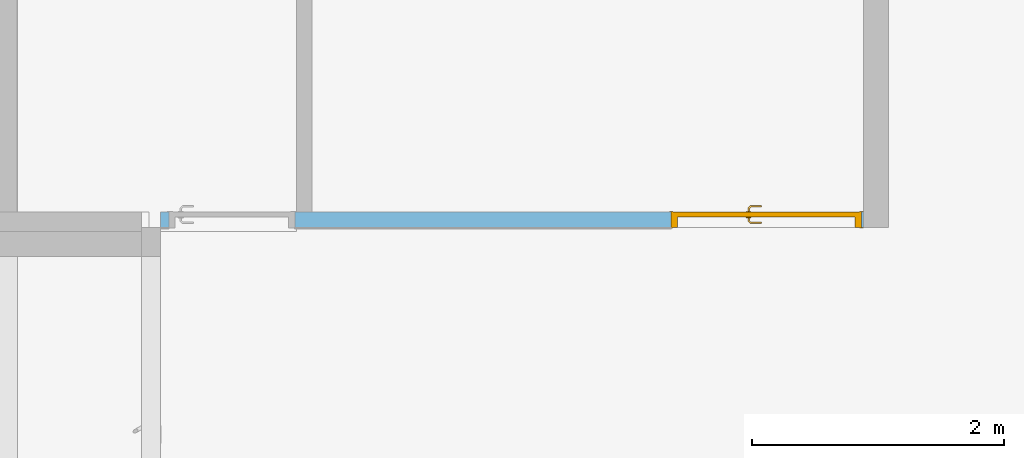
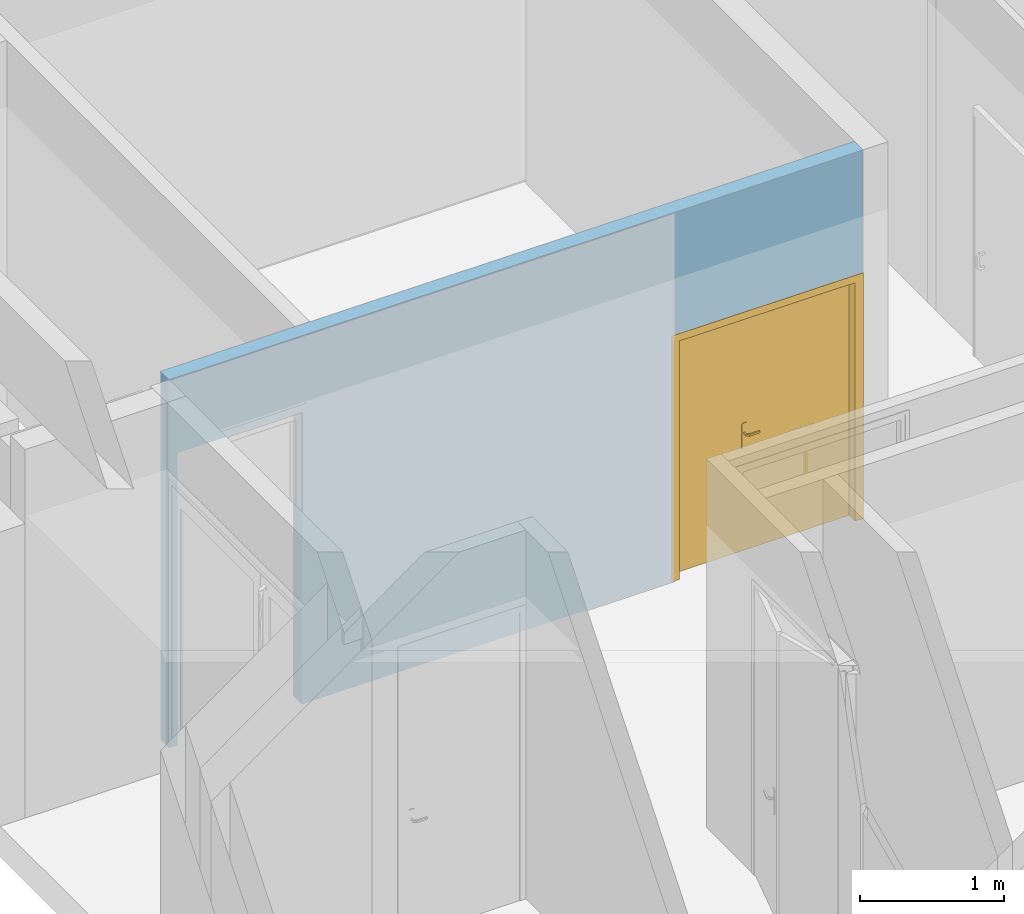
# One storey, part 197 of 240: 1 door, 2 openings, plus 1 element that does not belong to this part.
"""IFC2X3 building model written with IfcOpenShell, lengths in centimetres."""

from ifc_helpers import new_model, entity, si_unit, converted_unit, derived_unit, direction, frame, frame_2d, origin, place, context, subcontext, project, spatial, rectangle, extrude, faceted_brep, source, transform, mapped, material, material_list, layer, layer_set, layer_usage, type_object, type_shapes, element, fill, save


model = new_model("IFC2X3")

# Units and contexts
model_context = context("Model", 3, precision=0.001, world=origin(), true_north=direction((6.12303176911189e-17, 1.0)))
body_context = subcontext(model_context, "Body", "Model", "MODEL_VIEW")
ifc_project = project(units=[si_unit("LENGTHUNIT", "METRE", prefix="CENTI"), si_unit("AREAUNIT", "SQUARE_METRE"), si_unit("VOLUMEUNIT", "CUBIC_METRE"), converted_unit("PLANEANGLEUNIT", "DEGREE", entity("IfcRatioMeasure", 0.0174532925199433), si_unit("PLANEANGLEUNIT", "RADIAN"), dimensions=[0, 0, 0, 0, 0, 0, 0]), si_unit("MASSUNIT", "GRAM", prefix="KILO"), derived_unit("MASSDENSITYUNIT", [(si_unit("MASSUNIT", "GRAM", prefix="KILO"), 1), (si_unit("LENGTHUNIT", "METRE"), -3)]), si_unit("TIMEUNIT", "SECOND"), si_unit("FREQUENCYUNIT", "HERTZ"), si_unit("THERMODYNAMICTEMPERATUREUNIT", "DEGREE_CELSIUS"), derived_unit("THERMALTRANSMITTANCEUNIT", [(si_unit("MASSUNIT", "GRAM", prefix="KILO"), 1), (si_unit("THERMODYNAMICTEMPERATUREUNIT", "KELVIN"), -1), (si_unit("TIMEUNIT", "SECOND"), -3)]), derived_unit("VOLUMETRICFLOWRATEUNIT", [(si_unit("LENGTHUNIT", "METRE"), 3), (si_unit("TIMEUNIT", "SECOND"), -1)]), si_unit("ELECTRICCURRENTUNIT", "AMPERE"), si_unit("ELECTRICVOLTAGEUNIT", "VOLT"), si_unit("POWERUNIT", "WATT"), si_unit("FORCEUNIT", "NEWTON", prefix="KILO"), si_unit("ILLUMINANCEUNIT", "LUX"), si_unit("LUMINOUSFLUXUNIT", "LUMEN"), si_unit("LUMINOUSINTENSITYUNIT", "CANDELA"), derived_unit("USERDEFINED", [(si_unit("MASSUNIT", "GRAM", prefix="KILO"), -1), (si_unit("LENGTHUNIT", "METRE"), -2), (si_unit("TIMEUNIT", "SECOND"), 3), (si_unit("LUMINOUSFLUXUNIT", "LUMEN"), 1)]), derived_unit("LINEARVELOCITYUNIT", [(si_unit("LENGTHUNIT", "METRE"), 1), (si_unit("TIMEUNIT", "SECOND"), -1)]), si_unit("PRESSUREUNIT", "PASCAL"), derived_unit("USERDEFINED", [(si_unit("LENGTHUNIT", "METRE"), -2), (si_unit("MASSUNIT", "GRAM", prefix="KILO"), 1), (si_unit("TIMEUNIT", "SECOND"), -2)])], contexts=[model_context])

# Site, building, storey
site_placement = place(None, frame((-2781.94577612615, 7442.24238424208, 0.0)))
site = spatial("IfcSite", under=ifc_project, at=site_placement, Name="Default", CompositionType="ELEMENT")
building_placement = place(site_placement, origin())
building = spatial("IfcBuilding", under=site, at=building_placement, CompositionType="ELEMENT")
storey_placement = place(building_placement, origin())
storey = spatial("IfcBuildingStorey", under=building, at=storey_placement, Name="N00 - COO", CompositionType="ELEMENT", Elevation=0.0)

# Wall, openings, door
ifc_material_1 = material(Name="01 - Enduit/Plâtre")
ifc_layer_1 = layer(ifc_material_1, 1.0)
ifc_material_2 = material(Name="Maçonnerie - Béton")
ifc_layer_2 = layer(ifc_material_2, 10.0)
ifc_layer_3 = layer(ifc_material_1, 1.0)
ifc_layer_set = layer_set([ifc_layer_1, ifc_layer_2, ifc_layer_3], Name="Mur de base:06 - cloisons - agglos10 + faïence 12cm")
ifc_layer_usage = layer_usage(ifc_layer_set, "AXIS2", "NEGATIVE", 6.0)
wall_type = type_object("IfcWallType", Name="Mur de base:06 - cloisons - agglos10 + faïence 12cm", PredefinedType="STANDARD", material=ifc_layer_set)
wall_placement = place(building_placement, frame((-10752.3130476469, -2397.07903364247, 0.0)))
wall = element("IfcWallStandardCase", 1, at=wall_placement, inside=storey, type_object=wall_type, material=ifc_layer_usage, Name="Mur de base:06 - cloisons - agglos10 + faïence 12cm", ObjectType="Mur de base:06 - cloisons - agglos10 + faïence 12cm", context=body_context, shape_type="SweptSolid", body=[
    extrude(rectangle(XDim=557.478497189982, YDim=11.9999999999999, at=frame_2d((278.739248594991, -3.77475828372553e-14), x_axis=(-1.0, 0.0))), origin(), (0.0, 0.0, 1.0), 313.0),
])
opening_1_placement = place(wall_placement, frame((404.978497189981, -6.0, 0.0)))
opening_1 = element("IfcOpeningElement", 2, at=opening_1_placement, cuts=wall, Name="Int. Tierce:PP (1.44m x 2.04m):1", ObjectType="Opening", context=body_context, shape_type="SweptSolid", body=[
    extrude(rectangle(XDim=207.500000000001, YDim=151.0, at=frame_2d((103.750000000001, 75.5000000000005), x_axis=(1.0, 0.0))), frame((0.0, 0.0, 0.0), z_axis=(0.0, 1.0, 0.0), x_axis=(0.0, 0.0, 1.0)), (0.0, 0.0, 1.0), 12.0),
])
opening_2_placement = place(wall_placement, frame((6.49999999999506, -6.0, 0.0)))
element("IfcOpeningElement", 3, at=opening_2_placement, cuts=wall, Name="Int. Simple:PP simple (0.93m x 2.50m):1", ObjectType="Opening", context=body_context, shape_type="SweptSolid", body=[
    extrude(rectangle(XDim=248.500000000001, YDim=99.9999999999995, at=frame_2d((124.250000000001, 49.9999999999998), x_axis=(1.0, 0.0))), frame((0.0, 0.0, 0.0), z_axis=(0.0, 1.0, 0.0), x_axis=(0.0, 0.0, 1.0)), (0.0, 0.0, 1.0), 12.0),
])
ifc_material_3 = material(Name="Finition Peinture - Blanc satiné")
ifc_material_4 = material(Name="Bois - Panneau de porte")
ifc_material_5 = material(Name="Bois - Cadre de porte")
ifc_material_list_1 = material_list([ifc_material_3, ifc_material_4, ifc_material_5])
ifc_material_list_2 = material_list([ifc_material_3, ifc_material_4, ifc_material_5])
door_style = type_object("IfcDoorStyle", Name="PP (1.44m x 2.04m)", ConstructionType="NOTDEFINED", OperationType="DOUBLE_DOOR_SINGLE_SWING", ParameterTakesPrecedence=False, Sizeable=False, material=ifc_material_list_2)
shared_shape = source(origin(), body_context, "Body", "Brep", [
    faceted_brep([(91.5000000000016, -0.500000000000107, 87.0), (91.5000000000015, -0.500000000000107, 108.0), (90.5352761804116, -0.500000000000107, 108.399601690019), (89.5000000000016, -0.500000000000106, 108.535898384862), (88.4647238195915, -0.500000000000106, 108.399601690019), (87.5000000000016, -0.500000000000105, 108.0), (87.5000000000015, -0.500000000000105, 87.0), (88.4647238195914, -0.500000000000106, 86.6003983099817), (89.5000000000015, -0.500000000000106, 86.464101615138), (90.5352761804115, -0.500000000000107, 86.6003983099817), (91.5000000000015, 0.0, 108.0), (91.5000000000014, 0.0, 87.0), (90.5352761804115, 0.0, 86.6003983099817), (89.5000000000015, 0.0, 86.464101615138), (88.4647238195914, 0.0, 86.6003983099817), (87.5000000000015, 0.0, 87.0), (87.5000000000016, 0.0, 108.0), (88.4647238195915, 0.0, 108.399601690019), (89.5000000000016, 0.0, 108.535898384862), (90.5352761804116, 0.0, 108.399601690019)], [[[0, 1, 2, 3, 4, 5, 6, 7, 8, 9]], [[10, 11, 12, 13, 14, 15, 16, 17, 18, 19]], [[9, 12, 11, 0]], [[8, 13, 12, 9]], [[7, 14, 13, 8]], [[7, 6, 15, 14]], [[15, 6, 5, 16]], [[4, 17, 16, 5]], [[3, 18, 17, 4]], [[2, 19, 18, 3]], [[2, 1, 10, 19]], [[11, 10, 1, 0]]]),
    faceted_brep([(91.5000000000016, 4.0, 87.0), (91.5000000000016, 4.0, 108.0), (90.5352761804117, 4.0, 108.399601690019), (89.5000000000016, 4.0, 108.535898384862), (88.4647238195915, 4.0, 108.399601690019), (87.5000000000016, 4.0, 108.0), (87.5000000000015, 4.0, 87.0), (88.4647238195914, 4.0, 86.6003983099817), (89.5000000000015, 4.0, 86.464101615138), (90.5352761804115, 4.0, 86.6003983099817), (89.5000000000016, 4.49999999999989, 108.535898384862), (90.5352761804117, 4.49999999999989, 108.399601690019), (91.5000000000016, 4.49999999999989, 108.0), (91.5000000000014, 4.49999999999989, 87.0), (90.5352761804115, 4.49999999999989, 86.6003983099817), (89.5000000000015, 4.49999999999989, 86.464101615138), (88.4647238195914, 4.49999999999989, 86.6003983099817), (87.5000000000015, 4.49999999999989, 87.0), (87.5000000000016, 4.49999999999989, 108.0), (88.4647238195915, 4.49999999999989, 108.399601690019)], [[[0, 1, 2, 3, 4, 5, 6, 7, 8, 9]], [[10, 11, 12, 13, 14, 15, 16, 17, 18, 19]], [[4, 19, 18, 5]], [[3, 10, 19, 4]], [[2, 11, 10, 3]], [[2, 1, 12, 11]], [[13, 12, 1, 0]], [[9, 14, 13, 0]], [[8, 15, 14, 9]], [[7, 16, 15, 8]], [[7, 6, 17, 16]], [[17, 6, 5, 18]]]),
    faceted_brep([(89.2974701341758, -0.500000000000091, 100.778044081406), (89.7025298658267, -0.500000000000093, 100.778044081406), (90.1000000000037, -0.500000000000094, 100.699999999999), (90.1000000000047, -0.500000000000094, 99.2999999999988), (89.7025298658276, -0.500000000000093, 99.221955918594), (89.2974701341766, -0.500000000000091, 99.2219559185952), (88.8999999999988, -0.500000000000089, 99.3000000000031), (88.8999999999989, -0.500000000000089, 100.7), (89.7025298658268, -3.10045754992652, 100.778044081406), (90.1000000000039, -3.26509507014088, 100.7), (89.2974701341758, -2.93267631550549, 100.778044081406), (87.9298602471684, -4.30028620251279, 100.778044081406), (88.0976414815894, -4.70534593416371, 100.778044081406), (88.8999999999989, -2.76803879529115, 100.7), (88.8999999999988, -2.76803879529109, 99.3000000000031), (89.2974701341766, -2.93267631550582, 99.2219559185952), (89.7025298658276, -3.10045754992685, 99.221955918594), (88.0976414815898, -4.7053459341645, 99.221955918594), (87.9298602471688, -4.30028620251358, 99.2219559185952), (90.1000000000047, -3.26509507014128, 99.2999999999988), (88.2622790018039, -5.10281606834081, 100.7), (87.7652227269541, -3.90281606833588, 100.7), (87.7652227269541, -3.90281606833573, 99.3000000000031), (88.2622790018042, -5.10281606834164, 99.2999999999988), (79.4981359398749, -5.10281606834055, 100.7), (79.4981359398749, -4.70534593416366, 100.778044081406), (79.4981359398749, -4.30028620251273, 100.778044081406), (79.4981359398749, -3.90281606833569, 100.699999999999), (79.4981359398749, -3.90281606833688, 99.3000000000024), (79.4981359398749, -4.30028620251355, 99.2219559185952), (79.4981359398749, -4.70534593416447, 99.221955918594), (79.4981359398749, -5.10281606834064, 99.2999999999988), (83.7139980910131, -4.5028160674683, 100.78786867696), (84.2692302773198, -5.1028160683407, 100.7), (83.6316793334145, -3.9028160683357, 100.7), (83.6316793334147, -3.9028160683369, 99.3000000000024), (83.7139981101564, -4.50281607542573, 99.2121313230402), (84.2692310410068, -5.10281606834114, 99.2999999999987)], [[[0, 1, 2, 3, 4, 5, 6, 7]], [[2, 1, 8, 9]], [[1, 0, 10, 11, 12, 8]], [[0, 7, 13, 10]], [[14, 13, 7, 6]], [[5, 15, 14, 6]], [[5, 4, 16, 17, 18, 15]], [[3, 19, 16, 4]], [[9, 19, 3, 2]], [[9, 8, 12, 20]], [[10, 13, 21, 11]], [[22, 21, 13, 14]], [[14, 15, 18, 22]], [[16, 19, 23, 17]], [[20, 23, 19, 9]], [[24, 25, 26, 27, 28, 29, 30, 31]], [[32, 25, 33]], [[33, 25, 24]], [[33, 20, 12]], [[11, 34, 32]], [[34, 11, 21]], [[27, 26, 34]], [[32, 26, 25]], [[32, 34, 26]], [[32, 33, 12]], [[11, 32, 12]], [[21, 22, 35, 28, 27, 34]], [[36, 29, 35]], [[30, 36, 37]], [[18, 35, 22]], [[29, 28, 35]], [[30, 37, 31]], [[37, 17, 23]], [[36, 17, 37]], [[36, 18, 17]], [[36, 35, 18]], [[29, 36, 30]], [[23, 20, 33, 24, 31, 37]]]),
    faceted_brep([(89.2974701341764, 4.49999999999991, 99.2219559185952), (89.7025298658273, 4.49999999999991, 99.221955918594), (90.1000000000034, 4.4999999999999, 99.2999999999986), (90.1000000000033, 4.4999999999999, 100.7), (89.7025298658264, 4.49999999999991, 100.778044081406), (89.2974701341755, 4.49999999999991, 100.778044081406), (88.8999999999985, 4.49999999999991, 100.7), (88.8999999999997, 4.49999999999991, 99.3000000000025), (88.8999999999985, 6.7485204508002, 100.7), (88.8999999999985, 6.74852045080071, 99.3000000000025), (89.2974701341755, 6.91315797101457, 100.778044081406), (89.7025298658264, 7.0809392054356, 100.778044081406), (88.083890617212, 8.69957845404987, 100.778044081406), (87.916109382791, 8.29451872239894, 100.778044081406), (90.1000000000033, 7.24557672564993, 100.7), (90.1000000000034, 7.24557672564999, 99.2999999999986), (89.7025298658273, 7.08093920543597, 99.221955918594), (89.2974701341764, 6.91315797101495, 99.2219559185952), (87.9161093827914, 8.29451872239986, 99.2219559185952), (88.0838906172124, 8.69957845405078, 99.221955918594), (87.7514718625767, 7.89704858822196, 100.7), (87.7514718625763, 7.89704858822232, 99.3000000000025), (88.2485281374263, 9.09704858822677, 100.7), (88.2485281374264, 9.09704858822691, 99.2999999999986), (79.4954216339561, 8.29451872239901, 100.778044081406), (79.4954216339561, 8.69957845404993, 100.778044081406), (79.4954216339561, 9.09704858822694, 100.7), (79.4954216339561, 9.09704858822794, 99.2999999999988), (79.4954216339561, 8.6995784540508, 99.221955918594), (79.4954216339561, 8.29451872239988, 99.2219559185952), (79.4954216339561, 7.89704858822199, 99.3000000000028), (79.4954216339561, 7.89704858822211, 100.7), (83.6234467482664, 7.89704858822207, 100.7), (83.6234479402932, 7.89704858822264, 99.3000000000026), (83.7057655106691, 8.49704858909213, 100.78786867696), (84.2554794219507, 9.09704858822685, 100.7), (84.2554795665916, 9.09704858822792, 99.2999999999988), (83.705765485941, 8.49704858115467, 99.2121313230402)], [[[0, 1, 2, 3, 4, 5, 6, 7]], [[8, 9, 7, 6]], [[5, 10, 8, 6]], [[5, 4, 11, 12, 13, 10]], [[3, 14, 11, 4]], [[14, 3, 2, 15]], [[2, 1, 16, 15]], [[1, 0, 17, 18, 19, 16]], [[0, 7, 9, 17]], [[20, 21, 9, 8]], [[8, 10, 13, 20]], [[14, 22, 12, 11]], [[23, 22, 14, 15]], [[15, 16, 19, 23]], [[17, 9, 21, 18]], [[24, 25, 26, 27, 28, 29, 30, 31]], [[21, 20, 32, 31, 30, 33]], [[34, 24, 32]], [[25, 34, 35]], [[13, 32, 20]], [[24, 31, 32]], [[25, 35, 26]], [[35, 12, 22]], [[34, 12, 35]], [[34, 13, 12]], [[34, 32, 13]], [[24, 34, 25]], [[22, 23, 36, 27, 26, 35]], [[37, 28, 36]], [[36, 28, 27]], [[36, 23, 19]], [[18, 33, 37]], [[33, 18, 21]], [[30, 29, 33]], [[37, 29, 28]], [[37, 33, 29]], [[37, 36, 19]], [[18, 37, 19]]]),
    faceted_brep([(95.5000000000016, 4.0, 204.0), (95.5000000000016, 4.0, 0.0), (3.50000000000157, 4.0, 0.0), (3.50000000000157, 4.0, 204.0), (95.5000000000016, 0.0, 204.0), (3.50000000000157, 0.0, 204.0), (3.50000000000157, 0.0, 0.0), (95.5000000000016, 0.0, 0.0)], [[[0, 1, 2, 3]], [[4, 5, 6, 7]], [[3, 5, 4, 0]], [[2, 6, 5, 3]], [[1, 7, 6, 2]], [[0, 4, 7, 1]]]),
    faceted_brep([(0.0, 0.0, 0.0), (0.0, 12.0, 0.0), (5.0, 12.0, 0.0), (5.0, 4.0, 0.0), (3.50000000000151, 4.0, 0.0), (3.50000000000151, 0.0, 0.0), (0.0, 0.0, 207.500000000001), (0.0, 12.0, 207.500000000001), (151.0, 12.0, 207.500000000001), (151.0, 12.0, 0.0), (146.0, 12.0, 0.0), (146.0, 12.0, 202.499999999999), (5.0, 12.0, 202.499999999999), (5.0, 4.0, 202.499999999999), (146.0, 4.0, 202.499999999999), (146.0, 4.0, 0.0), (147.499999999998, 4.0, 0.0), (147.499999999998, 4.0, 204.0), (3.50000000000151, 4.0, 204.0), (3.50000000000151, 0.0, 204.0), (147.499999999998, 0.0, 204.0), (147.499999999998, 0.0, 0.0), (151.0, 0.0, 0.0), (151.0, 0.0, 207.500000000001)], [[[0, 1, 2, 3, 4, 5]], [[1, 0, 6, 7]], [[2, 1, 7, 8, 9, 10, 11, 12]], [[3, 2, 12, 13]], [[4, 3, 13, 14, 15, 16, 17, 18]], [[5, 4, 18, 19]], [[0, 5, 19, 20, 21, 22, 23, 6]], [[8, 23, 22, 9]], [[22, 21, 16, 15, 10, 9]], [[14, 11, 10, 15]], [[20, 17, 16, 21]], [[7, 6, 23, 8]], [[13, 12, 11, 14]], [[19, 18, 17, 20]]]),
    faceted_brep([(147.500000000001, 0.0, 204.0), (147.500000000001, 4.0, 204.0), (95.5000000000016, 4.0, 204.0), (95.5000000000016, 0.0, 204.0), (147.500000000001, 0.0, 0.0), (95.5000000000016, 0.0, 0.0), (95.5000000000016, 4.0, 0.0), (147.500000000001, 4.0, 0.0)], [[[0, 1, 2, 3]], [[4, 5, 6, 7]], [[1, 0, 4, 7]], [[2, 1, 7, 6]], [[3, 2, 6, 5]], [[0, 3, 5, 4]]]),
    faceted_brep([(1.50000000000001, 12.0, 0.0), (-1.49999999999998, 12.0, 0.0), (-1.49999999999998, 12.5000000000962, 0.0), (1.50000000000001, 12.5000000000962, 0.0), (1.50000000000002, 12.0, 206.0), (149.5, 12.0, 206.0), (149.5, 12.0, 0.0), (152.5, 12.0, 0.0), (152.5, 12.0, 209.0), (-1.49999999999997, 12.0, 209.0), (-1.49999999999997, 12.5000000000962, 209.0), (152.5, 12.5000000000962, 209.0), (152.5, 12.5000000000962, 0.0), (149.5, 12.5000000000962, 0.0), (149.5, 12.5000000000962, 206.0), (1.50000000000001, 12.5000000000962, 206.0)], [[[0, 1, 2, 3]], [[1, 0, 4, 5, 6, 7, 8, 9]], [[2, 1, 9, 10]], [[3, 2, 10, 11, 12, 13, 14, 15]], [[0, 3, 15, 4]], [[6, 13, 12, 7]], [[5, 14, 13, 6]], [[11, 8, 7, 12]], [[10, 9, 8, 11]], [[4, 15, 14, 5]]]),
    faceted_brep([(-1.49999999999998, -0.500000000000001, 0.0), (1.50000000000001, -0.500000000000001, 0.0), (1.50000000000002, -0.500000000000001, 206.0), (149.5, -0.500000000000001, 206.0), (149.5, -0.500000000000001, 0.0), (152.5, -0.500000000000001, 0.0), (152.5, -0.500000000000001, 209.0), (-1.49999999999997, -0.500000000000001, 209.0), (-1.49999999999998, 0.0, 0.0), (-1.49999999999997, 0.0, 209.0), (1.50000000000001, 0.0, 0.0), (152.5, 0.0, 209.0), (152.5, 0.0, 0.0), (149.5, 0.0, 0.0), (149.5, 0.0, 206.0), (1.50000000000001, 0.0, 206.0)], [[[0, 1, 2, 3, 4, 5, 6, 7]], [[8, 0, 7, 9]], [[10, 8, 9, 11, 12, 13, 14, 15]], [[1, 10, 15, 2]], [[3, 14, 13, 4]], [[11, 6, 5, 12]], [[9, 7, 6, 11]], [[2, 15, 14, 3]], [[4, 13, 12, 5]], [[1, 0, 8, 10]]]),
])
type_shapes(door_style, [shared_shape])
door_placement = place(opening_1_placement, frame((151.0, 12.0, 0.0), z_axis=(0.0, 0.0, 1.0), x_axis=(-1.0, 0.0, 0.0)))
door = element("IfcDoor", 4, at=door_placement, inside=storey, type_object=door_style, material=ifc_material_list_1, Name="Int. Tierce:PP (1.44m x 2.04m)", ObjectType="Int. Tierce:PP (1.44m x 2.04m)", OverallHeight=207.500000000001, OverallWidth=151.0, context=body_context, shape_type="MappedRepresentation", body=[
    mapped(shared_shape, transform((0.0, 0.0, 0.0), scale=1.0)),
])
fill(opening_1, door)

save(model, "model.ifc")
